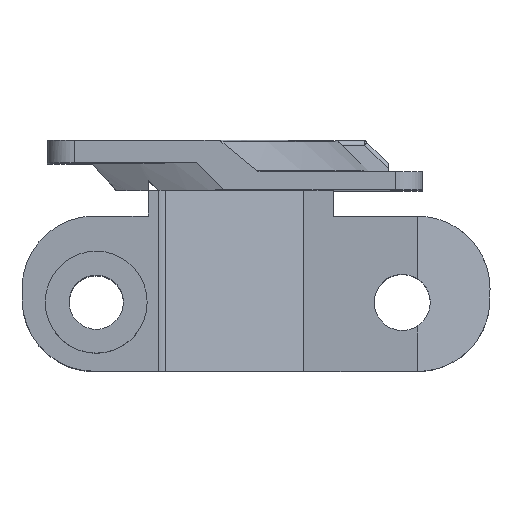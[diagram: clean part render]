
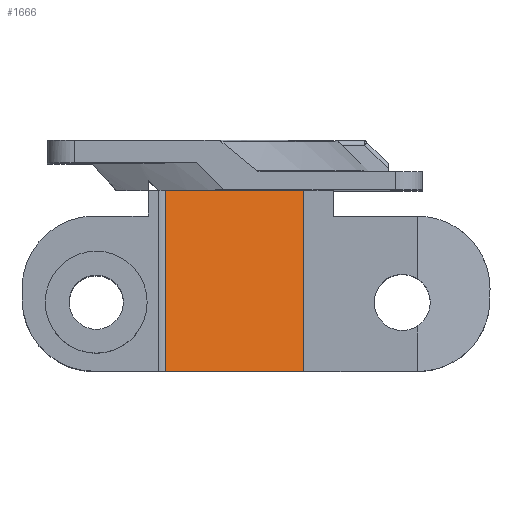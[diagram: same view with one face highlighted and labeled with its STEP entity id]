
A CAD part, top view. The second image highlights one B-rep face of the part: STEP entity #1666.
In plain terms, the highlighted planar face has unit normal (0.358, 0, 0.934).
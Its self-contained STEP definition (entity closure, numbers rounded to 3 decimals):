
#1641 = VERTEX_POINT ( 'NONE', #3114 ) ;
#1652 = EDGE_LOOP ( 'NONE', ( #1725, #1684, #1712, #1661 ) ) ;
#1657 = EDGE_CURVE ( 'NONE', #1813, #1685, #2739, .T. ) ;
#1661 = ORIENTED_EDGE ( 'NONE', *, *, #1686, .T. ) ;
#1662 = VERTEX_POINT ( 'NONE', #2728 ) ;
#1664 = EDGE_CURVE ( 'NONE', #1662, #1641, #2749, .T. ) ;
#1666 = ADVANCED_FACE ( 'NONE', ( #2750 ), #2764, .T. ) ;
#1684 = ORIENTED_EDGE ( 'NONE', *, *, #1835, .F. ) ;
#1685 = VERTEX_POINT ( 'NONE', #2827 ) ;
#1686 = EDGE_CURVE ( 'NONE', #1685, #1662, #2822, .T. ) ;
#1712 = ORIENTED_EDGE ( 'NONE', *, *, #1657, .T. ) ;
#1725 = ORIENTED_EDGE ( 'NONE', *, *, #1664, .T. ) ;
#1813 = VERTEX_POINT ( 'NONE', #3781 ) ;
#1835 = EDGE_CURVE ( 'NONE', #1813, #1641, #3798, .T. ) ;
#2708 = DIRECTION ( 'NONE',  ( 0., -1., 0. ) ) ;
#2709 = VECTOR ( 'NONE', #2708, 1000. ) ;
#2721 = DIRECTION ( 'NONE',  ( 0., 1., 0. ) ) ;
#2722 = VECTOR ( 'NONE', #2721, 1000. ) ;
#2728 = CARTESIAN_POINT ( 'NONE',  ( 29.17, 0.224, -5.631 ) ) ;
#2739 = LINE ( 'NONE', #2751, #2722 ) ;
#2748 = CARTESIAN_POINT ( 'NONE',  ( 29.17, -0.276, -5.631 ) ) ;
#2749 = LINE ( 'NONE', #2748, #2709 ) ;
#2750 = FACE_OUTER_BOUND ( 'NONE', #1652, .T. ) ;
#2751 = CARTESIAN_POINT ( 'NONE',  ( 44.46, -0.276, -11.499 ) ) ;
#2763 = DIRECTION ( 'NONE',  ( 0.934, 0., -0.358 ) ) ;
#2764 = PLANE ( 'NONE',  #2800 ) ;
#2766 = DIRECTION ( 'NONE',  ( -0.934, 0., 0.358 ) ) ;
#2767 = VECTOR ( 'NONE', #2766, 1000. ) ;
#2768 = CARTESIAN_POINT ( 'NONE',  ( 29.17, 0.224, -5.631 ) ) ;
#2783 = DIRECTION ( 'NONE',  ( 0.358, 0., 0.934 ) ) ;
#2784 = CARTESIAN_POINT ( 'NONE',  ( 29.17, -0.276, -5.631 ) ) ;
#2800 = AXIS2_PLACEMENT_3D ( 'NONE', #2784, #2783, #2763 ) ;
#2822 = LINE ( 'NONE', #2768, #2767 ) ;
#2827 = CARTESIAN_POINT ( 'NONE',  ( 44.46, 0.224, -11.499 ) ) ;
#3114 = CARTESIAN_POINT ( 'NONE',  ( 29.17, -19.776, -5.631 ) ) ;
#3781 = CARTESIAN_POINT ( 'NONE',  ( 44.46, -19.776, -11.499 ) ) ;
#3782 = DIRECTION ( 'NONE',  ( -0.934, 0., 0.358 ) ) ;
#3783 = VECTOR ( 'NONE', #3782, 1000. ) ;
#3793 = CARTESIAN_POINT ( 'NONE',  ( 44.46, -19.776, -11.499 ) ) ;
#3798 = LINE ( 'NONE', #3793, #3783 ) ;
